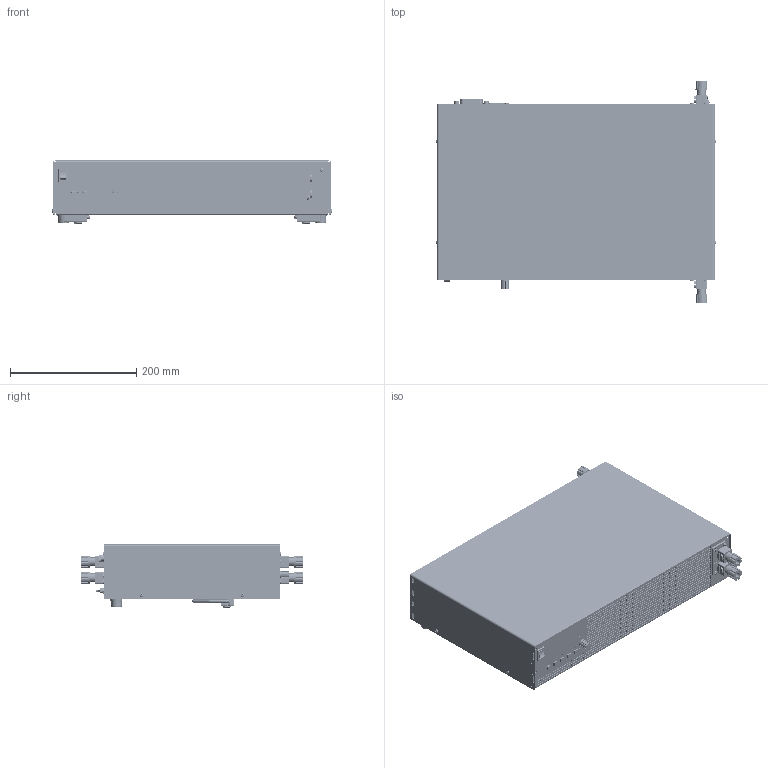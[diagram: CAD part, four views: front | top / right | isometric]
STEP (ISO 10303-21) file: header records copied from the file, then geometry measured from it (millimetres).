
FILE_DESCRIPTION(('STEP AP214'),'1');
FILE_NAME('PLA_M11_BPK4_60L_BPK4_60L_3D_02.step','2024-08-19T13:47:53',(' '),(' '),'Spatial InterOp 3D',' ',' ');
FILE_SCHEMA(('AUTOMOTIVE_DESIGN { 1 0 10303 214 1 1 1 1 }'));
Length unit declared in the file: millimetre
Products named in the file (7): PLA_M11_BPK4_60L_BPK4_60L_3D_02; *U192; *U193; *U194; *U195; *U196; AutoCreatedBlock_1C2
Assembly tree (10 placements, depth 2):
  PLA_M11_BPK4_60L_BPK4_60L_3D_02
    *U192  x2
    *U193
    *U194  x2
    *U195  x2
    *U196  x2
    AutoCreatedBlock_1C2
Bounding box: 444.06 x 351.94 x 100.18 mm (x, y, z)
Volume: 10178352 mm3; surface area: 1172682.6 mm2
Topology: 126 solids, 129 shells, 11310 faces, 30373 edges, 19457 vertices
Faces by surface type: plane 5789, cone 2492, cylinder 2473, bspline 248, torus 210, sphere 96, extrusion 2
Entity records: 455314 total; most frequent: CARTESIAN_POINT 77933, ORIENTED_EDGE 59526, DIRECTION 59517, EDGE_CURVE 29763, VECTOR 20513, LINE 20511, AXIS2_PLACEMENT_3D 19502, VERTEX_POINT 18836
